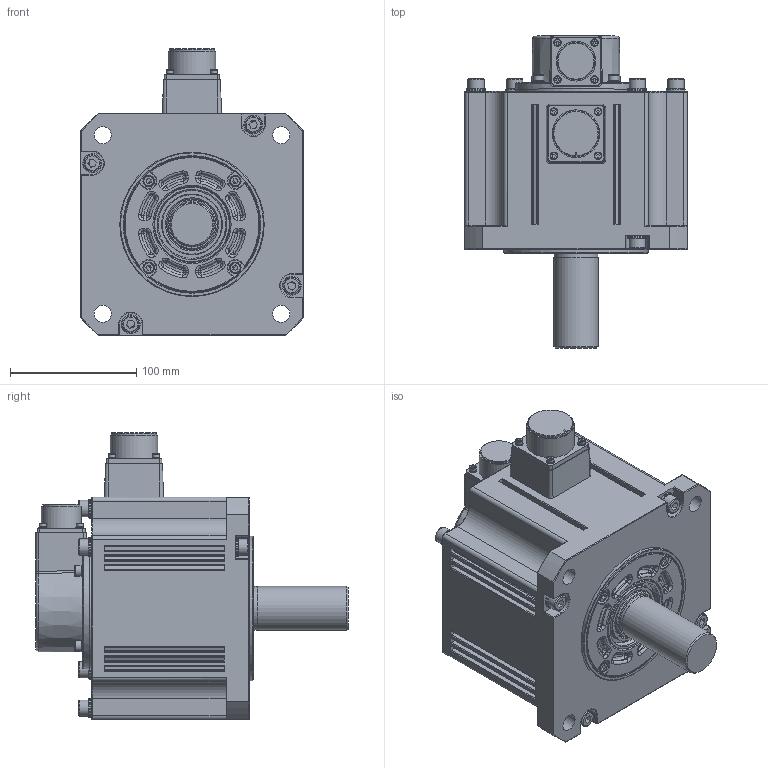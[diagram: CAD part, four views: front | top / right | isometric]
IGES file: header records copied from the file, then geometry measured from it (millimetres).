
Global section: file name: 7HNo Iges File Name specified; native system: AutoDesk Inventor R12.0; preprocessor: AutoDesk Inventor Iges Exporter R12.0; author: No Author specified; organization: No Organization specified; date: 20160715.184758; units: millimetre
Bounding box: 176 x 247 x 227.3 mm (x, y, z)
Volume: 3914542.3 mm3; surface area: 322035.3 mm2
Topology: 65 solids, 65 shells, 1603 faces, 3507 edges, 2151 vertices
Faces by surface type: plane 587, revolution 446, cylinder 273, torus 236, cone 49, sphere 8, bspline 4
Full cylindrical faces by diameter (mm): 3 x8, 3.7 x2, 5 x8, 5.5 x8, 6 x15, 8 x8, 8.5 x8, 9 x8, 13 x8, 15 x8, 24 x1, 29 x1, 29.5 x1, 31.5 x1, 34.8 x1, 35 x2, 36 x1, 37.7 x1, 38 x3, 40 x3, 47.112 x2, 60 x1, 68.463 x1, 69.6 x2, 83 x1, 95.8 x1, 114.3 x1, 157 x1, 161 x1, 165.7 x3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
